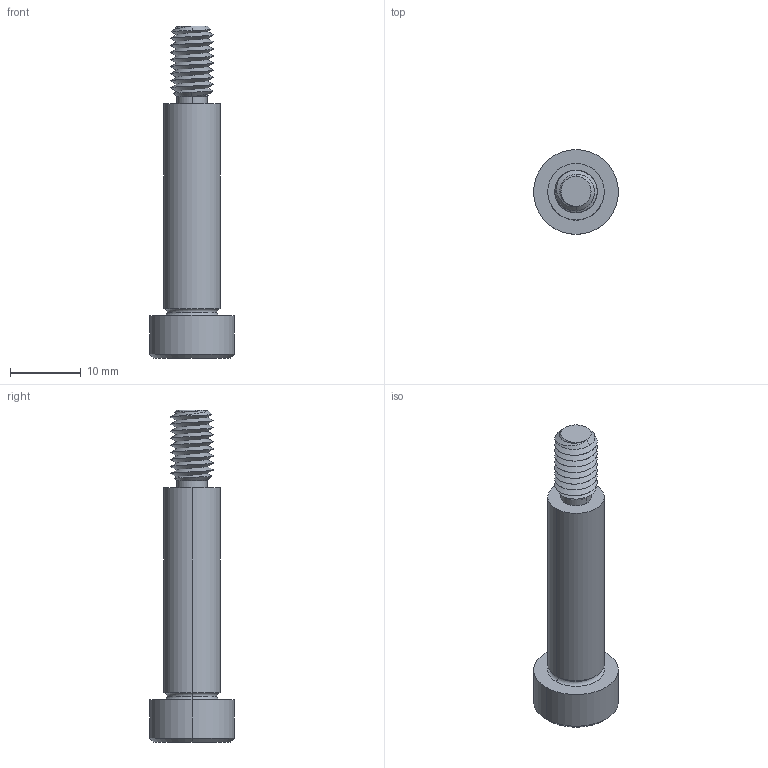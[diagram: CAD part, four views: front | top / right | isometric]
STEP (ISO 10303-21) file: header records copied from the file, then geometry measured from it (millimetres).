
FILE_DESCRIPTION (( 'STEP AP203' ), '1' );
FILE_NAME ('P0130.080-030-B2.step', '2021-11-09T21:39:40', ( '' ), ( '' ), 'SwSTEP 2.0', 'SolidWorks 2019', '' );
FILE_SCHEMA (( 'CONFIG_CONTROL_DESIGN' ));
Length unit declared in the file: millimetre
Products named in the file (1): P0130.080-030-B2
Bounding box: 12 x 12 x 47 mm (x, y, z)
Volume: 2336.2 mm3; surface area: 1586.8 mm2
Topology: 1 solids, 1 shells, 60 faces, 142 edges, 85 vertices
Faces by surface type: cylinder 24, plane 16, cone 14, torus 4, bspline 2
Entity records: 4245 total; most frequent: CARTESIAN_POINT 2899, ORIENTED_EDGE 280, DIRECTION 247, EDGE_CURVE 140, AXIS2_PLACEMENT_3D 99, VERTEX_POINT 85, EDGE_LOOP 63, FACE_OUTER_BOUND 60
